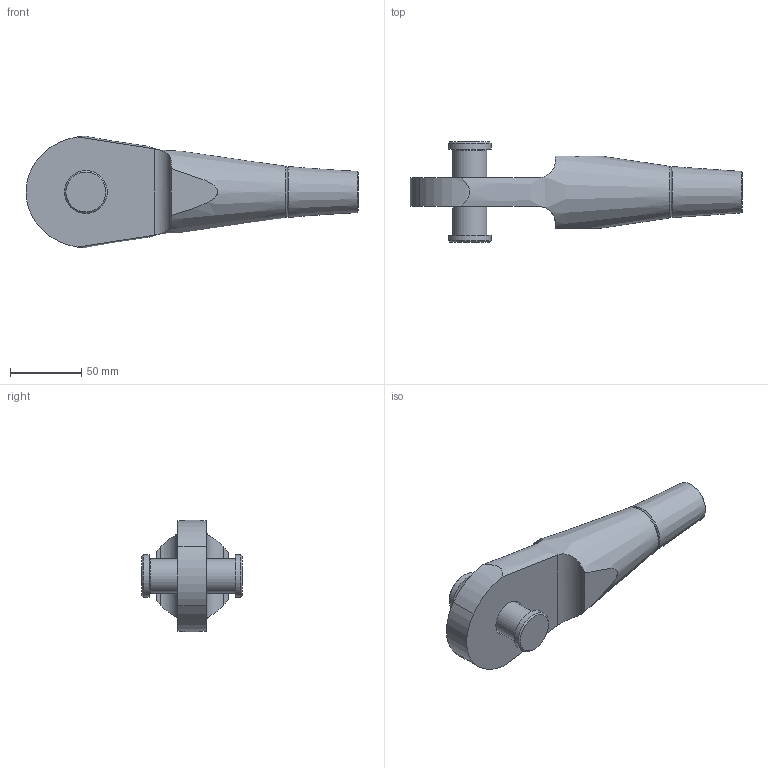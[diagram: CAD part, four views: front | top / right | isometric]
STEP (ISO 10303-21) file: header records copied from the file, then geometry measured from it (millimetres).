
FILE_DESCRIPTION(/* description */ (''),/* implementation_level */ '2;1');
FILE_NAME(/* name */ 'G:\Engineering\700 CAD\Internet-PX-1-step-igs-dxf\520-OES-Arbeitsdateien\520-024-OES.stp',/* time_stamp */ '2020-06-26T10:11:30+02:00',/* author */ ('schwarz'),/* organization */ (''),/* preprocessor_version */ 'ST-DEVELOPER v16.1',/* originating_system */ 'Autodesk Inventor 2016',/* authorisation */ '');
FILE_SCHEMA (('AUTOMOTIVE_DESIGN { 1 0 10303 214 3 1 1 }'));
Length unit declared in the file: centimetre
Products named in the file (1): 520-024-OES-KMU-Kunde
Bounding box: 233 x 70.72 x 78.15 mm (x, y, z)
Volume: 329779.6 mm3; surface area: 48755.2 mm2
Topology: 2 solids, 3 shells, 49 faces, 105 edges, 68 vertices
Faces by surface type: plane 23, cylinder 14, cone 10, torus 2
Full cylindrical faces by diameter (mm): 4.917 x1, 6 x1, 6.8 x1, 12 x1, 24 x1, 25.5 x1, 26 x1, 30 x2
Entity records: 1341 total; most frequent: CARTESIAN_POINT 292, DIRECTION 204, ORIENTED_EDGE 158, AXIS2_PLACEMENT_3D 89, EDGE_CURVE 79, EDGE_LOOP 78, VERTEX_POINT 63, STYLED_ITEM 51
